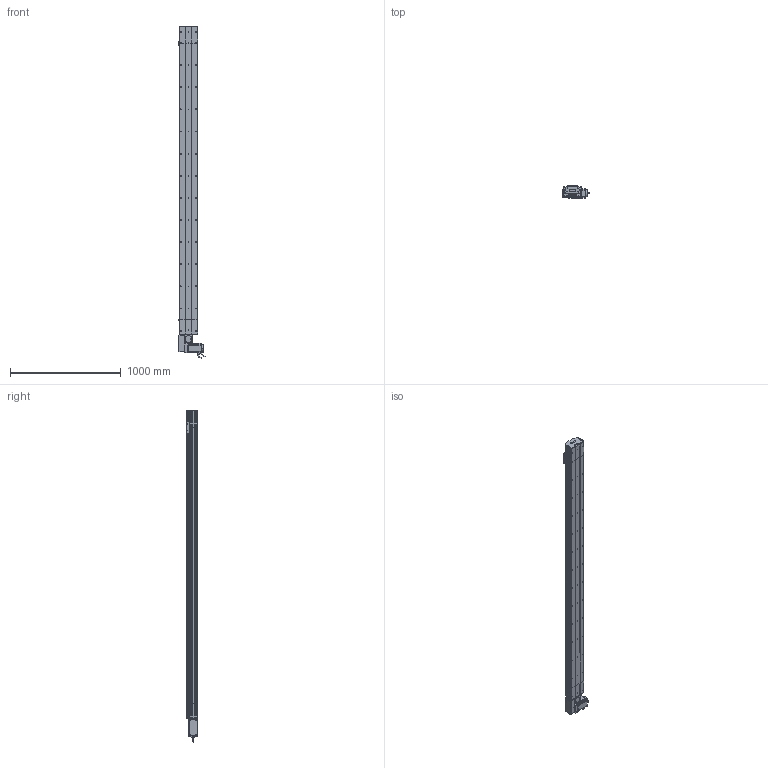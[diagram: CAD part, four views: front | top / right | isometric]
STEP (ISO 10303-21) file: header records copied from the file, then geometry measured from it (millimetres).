
FILE_DESCRIPTION (( 'STEP AP214' ), '1' );
FILE_NAME ('D17 TBN RH S2500.STEP', '2010-06-30T12:59:25', ( 'Conseil Régional Haute-Normandie' ), ( 'Conseil Régional Haute-Normandie' ), 'SwSTEP 2.0', 'SolidWorks 2010', '' );
FILE_SCHEMA (( 'AUTOMOTIVE_DESIGN' ));
Length unit declared in the file: millimetre
Products named in the file (40): course 2500 D17B_Default; Renvoi RH_Default; Vis M5 L16-2_Default; vis M5 L16_Default; Couroie+ rail D17 Course 2500 ; corp D17B 2500_Default; Plaque racord D17_Default; couvercle D17B course L2500_Default; vis M5 L70_Default; corpl head D17 _Default; codeur 90BLDC125-640; Head RH D17B_Default; Conecteur_Default; Conecteur2_Default; couvercle D17B head_Default; corps 90BLDC125A-640; avant 90BLDC125A-640; Moteur motionking 90BLDC125A-640; plaque de  bout head D17B RH_Default; cache D17_Default; Arbre+rail head D17B; vis M5 L5_Default; couroie head D17_Default; cache arbre D17_Default; poulie head_Default; guide D17; vis M5 L8 90°_Default; couvercle D17B_Default; Couroie tail D17B_Default; Chariot D17 TBN; chariot D17 TBN; vis M5 L25_Default; vis M5 L12_Default; poulie tail_Default; plaque de  bout tail D17B_Default; Rail D17B; Tail D17B+100_Default; tete d''axe poulie D17B; corp tail D17B+100_Default; D17 TBN RH S2500
Assembly tree (66 placements, depth 4):
  D17 TBN RH S2500
    course 2500 D17B_Default
      couvercle D17B course L2500_Default
      Couroie+ rail D17 Course 2500 
      corp D17B 2500_Default
    chariot D17 TBN
      Chariot D17 TBN
      guide D17  x2
    Head RH D17B_Default
      vis M5 L70_Default  x4
      Vis M5 L16-2_Default  x4
      vis M5 L12_Default  x8
      corpl head D17 _Default
      vis M5 L16_Default  x2
      Arbre+rail head D17B
      Renvoi RH_Default
      cache D17_Default  x2
      Moteur motionking 90BLDC125A-640
        codeur 90BLDC125-640
        corps 90BLDC125A-640
        avant 90BLDC125A-640
        Conecteur2_Default
        Conecteur_Default
      vis M5 L5_Default  x4
      plaque de  bout head D17B RH_Default
      cache arbre D17_Default
      couvercle D17B head_Default
      poulie head_Default
      vis M5 L25_Default  x2
      couroie head D17_Default
      Plaque racord D17_Default
    Tail D17B+100_Default
      vis M5 L25_Default  x2
      vis M5 L12_Default  x4
      vis M5 L8 90°_Default  x2
      plaque de  bout tail D17B_Default
      tete d''axe poulie D17B
      Couroie tail D17B_Default
      corp tail D17B+100_Default
      couvercle D17B_Default
      Rail D17B
      poulie tail_Default
Bounding box: 245.2 x 105.65 x 3000.95 mm (x, y, z)
Volume: 16730726.9 mm3; surface area: 4862192 mm2
Topology: 89 solids, 89 shells, 2631 faces, 6755 edges, 4354 vertices
Faces by surface type: plane 1537, cylinder 797, bspline 136, cone 80, torus 77, sphere 4
Entity records: 85605 total; most frequent: CARTESIAN_POINT 25401, ORIENTED_EDGE 10682, DIRECTION 10078, EDGE_CURVE 5341, VECTOR 3508, LINE 3508, VERTEX_POINT 3498, AXIS2_PLACEMENT_3D 3285
